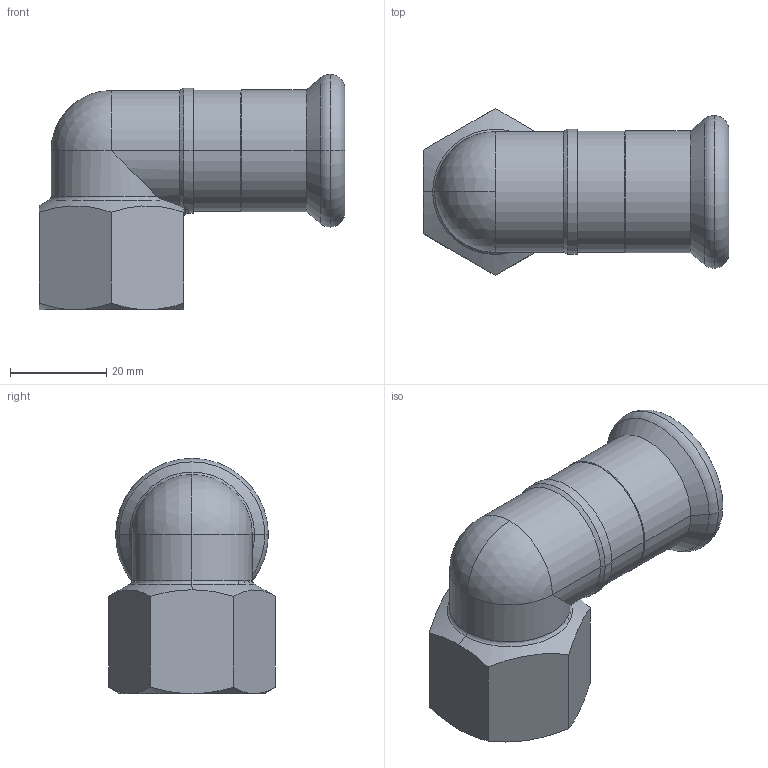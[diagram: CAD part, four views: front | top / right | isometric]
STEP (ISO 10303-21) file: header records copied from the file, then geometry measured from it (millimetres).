
FILE_DESCRIPTION(('OneSpaceDesigner STEP Export'),'2;1');
FILE_NAME('R2709 22xG3-4.pkg.stp','2010-06-09T14:45:15',(''),(''),'OneSpace Designer STEP processor for AP214 (Solid Model)','OneSpace Modeling 15.00A 14-Mar-2007 (C) CoCreate Software GmbH','');
FILE_SCHEMA(('AUTOMOTIVE_DESIGN { 1 0 10303 214 1 1 1 1 }'));
Length unit declared in the file: millimetre
Products named in the file (2): R2709_22xG3-4
Assembly tree (1 placements, depth 2):
  R2709_22xG3-4
    R2709_22xG3-4
Bounding box: 63.5 x 34.64 x 48.85 mm (x, y, z)
Volume: 17031.6 mm3; surface area: 14033.6 mm2
Topology: 1 solids, 1 shells, 98 faces, 240 edges, 148 vertices
Faces by surface type: plane 40, cylinder 32, cone 15, torus 7, sphere 4
Entity records: 3696 total; most frequent: CARTESIAN_POINT 1604, ORIENTED_EDGE 472, DIRECTION 349, EDGE_CURVE 236, VERTEX_POINT 148, AXIS2_PLACEMENT_3D 120, EDGE_LOOP 114, VECTOR 109
